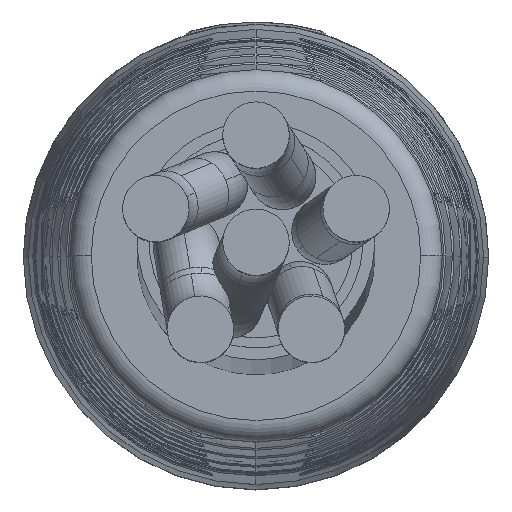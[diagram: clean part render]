
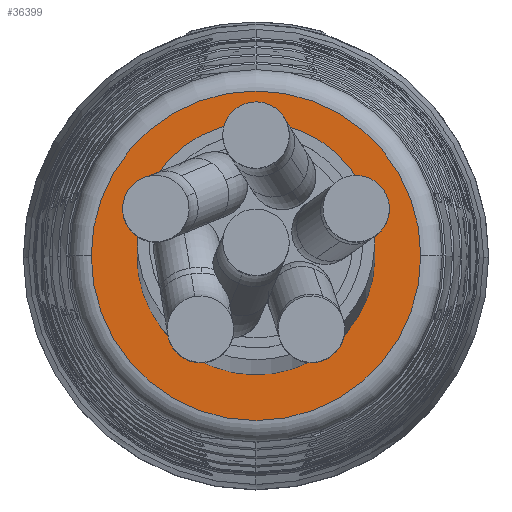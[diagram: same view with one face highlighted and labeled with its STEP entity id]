
A CAD part, top view. The second image highlights one B-rep face of the part: STEP entity #36399.
In plain terms, the highlighted planar face has unit normal (0, 0, 1).
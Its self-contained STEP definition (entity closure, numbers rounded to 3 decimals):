
#601 = CARTESIAN_POINT ( 'NONE',  ( 5.55, 0., 236.5 ) ) ;
#655 = EDGE_LOOP ( 'NONE', ( #6925, #29335 ) ) ;
#1398 = DIRECTION ( 'NONE',  ( 0., 0., 1. ) ) ;
#2775 = CIRCLE ( 'NONE', #45264, 7.692 ) ;
#3014 = CARTESIAN_POINT ( 'NONE',  ( 7.692, 0., 236.5 ) ) ;
#4714 = DIRECTION ( 'NONE',  ( 1., 0., 0. ) ) ;
#6925 = ORIENTED_EDGE ( 'NONE', *, *, #35172, .T. ) ;
#10462 = VERTEX_POINT ( 'NONE', #3014 ) ;
#10687 = VERTEX_POINT ( 'NONE', #35827 ) ;
#10708 = VERTEX_POINT ( 'NONE', #23358 ) ;
#11061 = FACE_BOUND ( 'NONE', #27238, .T. ) ;
#12142 = DIRECTION ( 'NONE',  ( 0., 0., 1. ) ) ;
#12177 = EDGE_CURVE ( 'NONE', #19264, #10687, #20611, .T. ) ;
#14565 = CARTESIAN_POINT ( 'NONE',  ( 0., 0., 236.5 ) ) ;
#14762 = CIRCLE ( 'NONE', #44998, 7.692 ) ;
#14924 = PLANE ( 'NONE',  #23211 ) ;
#16527 = CARTESIAN_POINT ( 'NONE',  ( 0., 0., 236.5 ) ) ;
#16661 = CARTESIAN_POINT ( 'NONE',  ( 0., 0., 236.5 ) ) ;
#19264 = VERTEX_POINT ( 'NONE', #601 ) ;
#20611 = CIRCLE ( 'NONE', #34391, 5.55 ) ;
#23211 = AXIS2_PLACEMENT_3D ( 'NONE', #53384, #12142, #45189 ) ;
#23358 = CARTESIAN_POINT ( 'NONE',  ( -7.692, 0., 236.5 ) ) ;
#25871 = DIRECTION ( 'NONE',  ( 0., 0., 1. ) ) ;
#26040 = ORIENTED_EDGE ( 'NONE', *, *, #12177, .F. ) ;
#26660 = CARTESIAN_POINT ( 'NONE',  ( 0., 0., 236.5 ) ) ;
#27238 = EDGE_LOOP ( 'NONE', ( #26040, #45916 ) ) ;
#27775 = DIRECTION ( 'NONE',  ( 0., 0., 1. ) ) ;
#28390 = CIRCLE ( 'NONE', #50916, 5.55 ) ;
#29335 = ORIENTED_EDGE ( 'NONE', *, *, #43907, .T. ) ;
#32819 = EDGE_CURVE ( 'NONE', #10687, #19264, #28390, .T. ) ;
#33344 = DIRECTION ( 'NONE',  ( 0., 0., 1. ) ) ;
#34391 = AXIS2_PLACEMENT_3D ( 'NONE', #14565, #27775, #44316 ) ;
#35172 = EDGE_CURVE ( 'NONE', #10462, #10708, #14762, .T. ) ;
#35827 = CARTESIAN_POINT ( 'NONE',  ( -5.55, 0., 236.5 ) ) ;
#36399 = ADVANCED_FACE ( 'NONE', ( #48488, #11061 ), #14924, .T. ) ;
#43907 = EDGE_CURVE ( 'NONE', #10708, #10462, #2775, .T. ) ;
#44316 = DIRECTION ( 'NONE',  ( 1., 0., 0. ) ) ;
#44998 = AXIS2_PLACEMENT_3D ( 'NONE', #16527, #25871, #4714 ) ;
#45189 = DIRECTION ( 'NONE',  ( 1., 0., 0. ) ) ;
#45264 = AXIS2_PLACEMENT_3D ( 'NONE', #26660, #1398, #51360 ) ;
#45916 = ORIENTED_EDGE ( 'NONE', *, *, #32819, .F. ) ;
#48488 = FACE_OUTER_BOUND ( 'NONE', #655, .T. ) ;
#49901 = DIRECTION ( 'NONE',  ( 1., 0., 0. ) ) ;
#50916 = AXIS2_PLACEMENT_3D ( 'NONE', #16661, #33344, #49901 ) ;
#51360 = DIRECTION ( 'NONE',  ( 1., 0., 0. ) ) ;
#53384 = CARTESIAN_POINT ( 'NONE',  ( 0., 0., 236.5 ) ) ;
